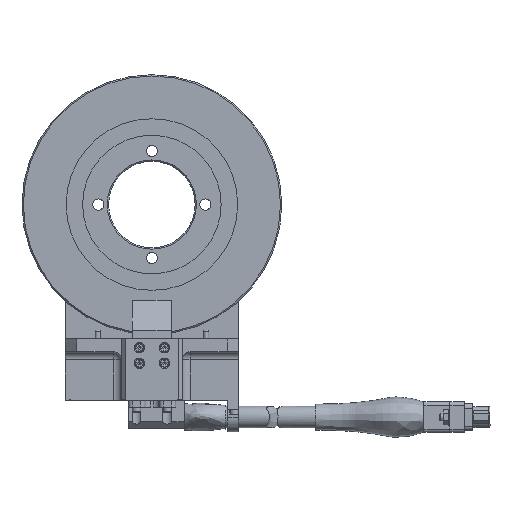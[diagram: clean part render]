
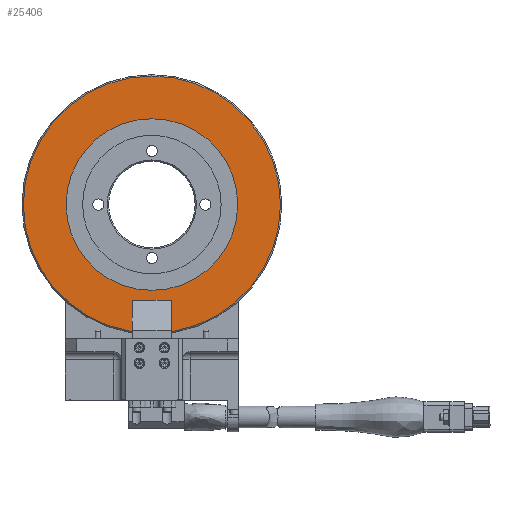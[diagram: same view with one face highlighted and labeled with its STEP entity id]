
A CAD part, front view. The second image highlights one B-rep face of the part: STEP entity #25406.
In plain terms, the highlighted planar face has unit normal (0, -1, 0).
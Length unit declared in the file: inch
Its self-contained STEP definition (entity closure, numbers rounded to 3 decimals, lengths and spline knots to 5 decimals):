
#2523 = VERTEX_POINT ( 'NONE', #3469 ) ;
#3469 = CARTESIAN_POINT ( 'NONE',  ( 1.485, 0.093, 0. ) ) ;
#10874 = DIRECTION ( 'NONE',  ( 0., 1., 0. ) ) ;
#20001 = AXIS2_PLACEMENT_3D ( 'NONE', #36163, #65834, #20100 ) ;
#20100 = DIRECTION ( 'NONE',  ( 1., 0., 0. ) ) ;
#22829 = EDGE_LOOP ( 'NONE', ( #70867 ) ) ;
#25406 = ADVANCED_FACE ( 'NONE', ( #27428, #49732 ), #62960, .F. ) ;
#27428 = FACE_BOUND ( 'NONE', #69013, .T. ) ;
#33073 = ORIENTED_EDGE ( 'NONE', *, *, #92361, .T. ) ;
#36163 = CARTESIAN_POINT ( 'NONE',  ( 0., 0.093, 0. ) ) ;
#40230 = CIRCLE ( 'NONE', #20001, 1.485 ) ;
#41549 = CARTESIAN_POINT ( 'NONE',  ( 0., 0.093, 0. ) ) ;
#44199 = EDGE_CURVE ( 'NONE', #2523, #2523, #40230, .T. ) ;
#48444 = DIRECTION ( 'NONE',  ( 0., 0., 1. ) ) ;
#49732 = FACE_OUTER_BOUND ( 'NONE', #22829, .T. ) ;
#50523 = AXIS2_PLACEMENT_3D ( 'NONE', #41549, #10874, #55621 ) ;
#51532 = CIRCLE ( 'NONE', #59383, 0.991 ) ;
#55621 = DIRECTION ( 'NONE',  ( 1., 0., 0. ) ) ;
#59141 = CARTESIAN_POINT ( 'NONE',  ( 0., 0.093, 0.991 ) ) ;
#59383 = AXIS2_PLACEMENT_3D ( 'NONE', #70405, #70912, #48444 ) ;
#62960 = PLANE ( 'NONE',  #50523 ) ;
#65834 = DIRECTION ( 'NONE',  ( 0., -1., 0. ) ) ;
#69013 = EDGE_LOOP ( 'NONE', ( #33073 ) ) ;
#70405 = CARTESIAN_POINT ( 'NONE',  ( 0., 0.093, 0. ) ) ;
#70867 = ORIENTED_EDGE ( 'NONE', *, *, #44199, .T. ) ;
#70912 = DIRECTION ( 'NONE',  ( 0., 1., 0. ) ) ;
#86978 = VERTEX_POINT ( 'NONE', #59141 ) ;
#92361 = EDGE_CURVE ( 'NONE', #86978, #86978, #51532, .T. ) ;
